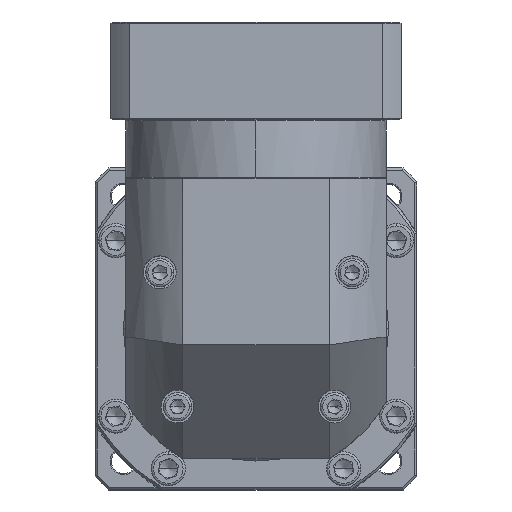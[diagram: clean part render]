
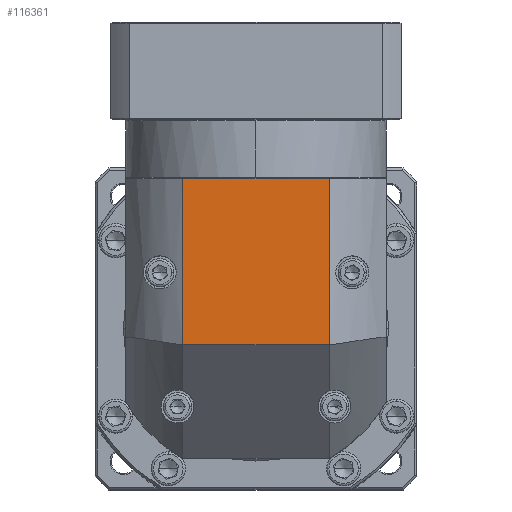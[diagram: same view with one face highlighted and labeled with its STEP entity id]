
A CAD part, top view. The second image highlights one B-rep face of the part: STEP entity #116361.
In plain terms, the highlighted planar face has unit normal (0, 0, 1).
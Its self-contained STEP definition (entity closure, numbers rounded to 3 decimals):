
#10872 = CARTESIAN_POINT ( 'NONE',  ( -181.7, 142.2, 90.054 ) ) ;
#11637 = EDGE_CURVE ( 'NONE', #143139, #98909, #38571, .T. ) ;
#18300 = FACE_OUTER_BOUND ( 'NONE', #134382, .T. ) ;
#22249 = ORIENTED_EDGE ( 'NONE', *, *, #99801, .F. ) ;
#30720 = AXIS2_PLACEMENT_3D ( 'NONE', #118816, #74618, #131645 ) ;
#33824 = VERTEX_POINT ( 'NONE', #51637 ) ;
#38571 = LINE ( 'NONE', #48272, #88353 ) ;
#40296 = ORIENTED_EDGE ( 'NONE', *, *, #51700, .F. ) ;
#41948 = ORIENTED_EDGE ( 'NONE', *, *, #11637, .F. ) ;
#42286 = DIRECTION ( 'NONE',  ( 1., 0., 0. ) ) ;
#48272 = CARTESIAN_POINT ( 'NONE',  ( -181.7, 18.8, 90.054 ) ) ;
#48683 = VECTOR ( 'NONE', #84707, 1000. ) ;
#51637 = CARTESIAN_POINT ( 'NONE',  ( -116.9, 68.8, 90.054 ) ) ;
#51700 = EDGE_CURVE ( 'NONE', #33824, #143139, #77951, .T. ) ;
#54861 = ORIENTED_EDGE ( 'NONE', *, *, #77720, .F. ) ;
#62136 = PLANE ( 'NONE',  #30720 ) ;
#65582 = VECTOR ( 'NONE', #42286, 1000. ) ;
#71017 = LINE ( 'NONE', #111436, #65582 ) ;
#74618 = DIRECTION ( 'NONE',  ( 0., 0., -1. ) ) ;
#77720 = EDGE_CURVE ( 'NONE', #134418, #33824, #91335, .T. ) ;
#77951 = LINE ( 'NONE', #85181, #131233 ) ;
#84203 = CARTESIAN_POINT ( 'NONE',  ( -116.9, 18.8, 90.054 ) ) ;
#84707 = DIRECTION ( 'NONE',  ( 0., -1., 0. ) ) ;
#85181 = CARTESIAN_POINT ( 'NONE',  ( -206.8, 68.8, 90.054 ) ) ;
#86018 = CARTESIAN_POINT ( 'NONE',  ( -116.9, 142.2, 90.054 ) ) ;
#88353 = VECTOR ( 'NONE', #93524, 1000. ) ;
#91335 = LINE ( 'NONE', #84203, #48683 ) ;
#93524 = DIRECTION ( 'NONE',  ( 0., 1., 0. ) ) ;
#94627 = DIRECTION ( 'NONE',  ( -1., 0., 0. ) ) ;
#97398 = CARTESIAN_POINT ( 'NONE',  ( -181.7, 68.8, 90.054 ) ) ;
#98909 = VERTEX_POINT ( 'NONE', #10872 ) ;
#99801 = EDGE_CURVE ( 'NONE', #98909, #134418, #71017, .T. ) ;
#111436 = CARTESIAN_POINT ( 'NONE',  ( -206.8, 142.2, 90.054 ) ) ;
#116361 = ADVANCED_FACE ( 'NONE', ( #18300 ), #62136, .F. ) ;
#118816 = CARTESIAN_POINT ( 'NONE',  ( -149.3, 76.3, 90.054 ) ) ;
#131233 = VECTOR ( 'NONE', #94627, 1000. ) ;
#131645 = DIRECTION ( 'NONE',  ( 1., 0., 0. ) ) ;
#134382 = EDGE_LOOP ( 'NONE', ( #41948, #40296, #54861, #22249 ) ) ;
#134418 = VERTEX_POINT ( 'NONE', #86018 ) ;
#143139 = VERTEX_POINT ( 'NONE', #97398 ) ;
